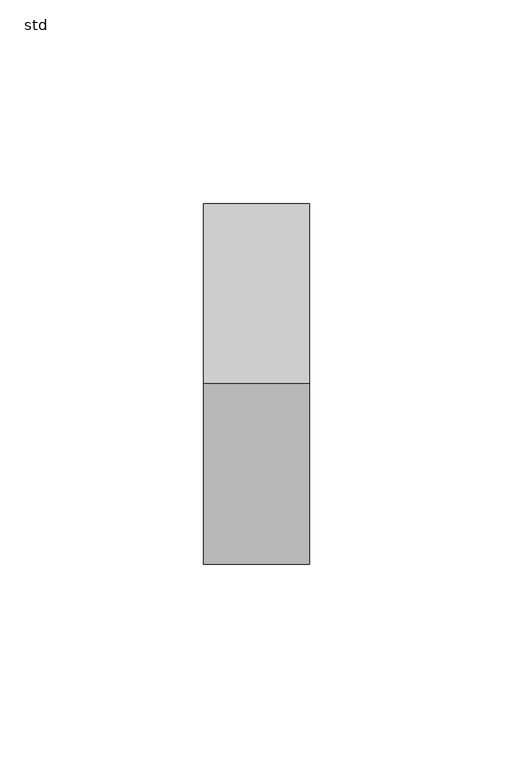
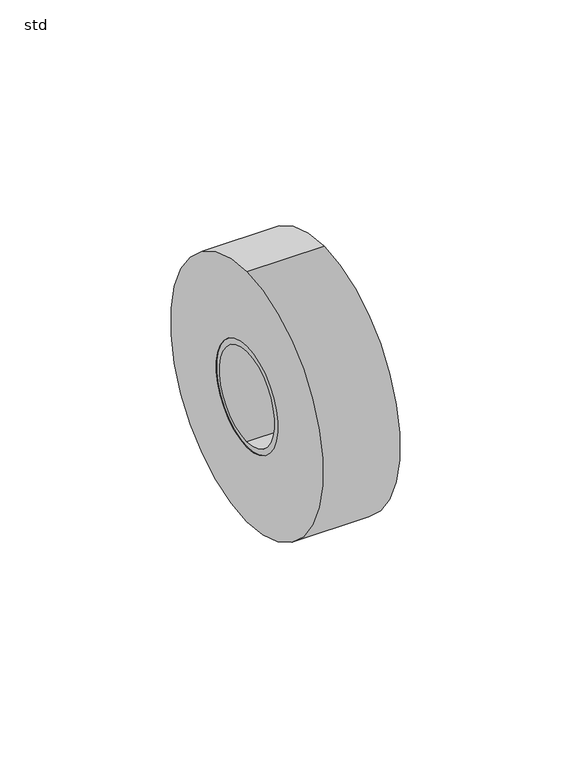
"""IFC4 building model written with IfcOpenShell, lengths in millimetres: pipe fitting geometry, PIF_ST_UN_GM-X compound pipe multi-optimiser (multiport)_ACO : std."""

from ifc_helpers import new_model, si_unit, point, frame, origin, origin_2d, place, context, project, spatial, polyline, circle_curve, trimmed, segment, composite_curve, outline, extrude, source, transform, mapped, element, save
from ifc_brep_helpers import plane_surface, cylinder_surface, revolved_surface, advanced_brep


def std_f4b83b23(model_context):
    return source(origin(), model_context, "Body", "SolidModel", [
        extrude(outline(composite_curve([segment(trimmed(circle_curve(origin_2d(), 44.5), [point((0.0, -44.5))], [point((0.0, 44.5))], False, "CARTESIAN"), True, "CONTINUOUS"), segment(trimmed(circle_curve(origin_2d(), 44.5), [point((0.0, 44.5))], [point((0.0, -44.5))], False, "CARTESIAN"), True, "CONTINUOUS")], self_intersect=False), holes=[composite_curve([segment(trimmed(circle_curve(origin_2d(), 18.0), [point((0.0, 18.0))], [point((0.0, -18.0))], True, "CARTESIAN"), True, "CONTINUOUS"), segment(trimmed(circle_curve(origin_2d(), 18.0), [point((0.0, -18.0))], [point((0.0, 18.0))], True, "CARTESIAN"), True, "CONTINUOUS")], self_intersect=False)]), frame((0.0, 0.0, 0.0), z_axis=(1.0, 0.0, 0.0), x_axis=(0.0, 1.0, 0.0)), (0.0, 0.0, 1.0), 26.0),
        advanced_brep(
        [(0.0, 0.0, -18.0), (0.0, 0.0, 18.0), (0.0, 0.0, 16.0), (0.0, 0.0, -16.0), (26.0, 0.0, -18.0), (26.0, 0.0, 18.0), (26.0, 0.0, -16.0), (26.0, 0.0, 16.0), (11.0, 0.0, -18.0), (11.0, 0.0, 18.0), (22.6, 0.0, 18.0), (22.6, 0.0, -18.0), (11.0, 0.0, -19.5), (11.0, 0.0, 19.5), (22.6, 0.0, -19.5), (22.6, 0.0, 19.5)],
        [
            (0, 1, circle_curve(frame((0.0, 0.0, 0.0), z_axis=(-1.0, 0.0, 0.0), x_axis=(0.0, 0.0, 1.0)), 18.0)),
            (1, 0, circle_curve(frame((0.0, 0.0, 0.0), z_axis=(-1.0, 0.0, 0.0), x_axis=(0.0, 0.0, 1.0)), 18.0)),
            (2, 3, circle_curve(frame((0.0, 0.0, 0.0), z_axis=(1.0, 0.0, 0.0), x_axis=(0.0, 0.0, 1.0)), 16.0)),
            (3, 2, circle_curve(frame((0.0, 0.0, 0.0), z_axis=(1.0, 0.0, 0.0), x_axis=(0.0, 0.0, 1.0)), 16.0)),
            (4, 5, circle_curve(frame((26.0, 0.0, 0.0), z_axis=(1.0, 0.0, 0.0), x_axis=(0.0, 0.0, 1.0)), 18.0)),
            (5, 4, circle_curve(frame((26.0, 0.0, 0.0), z_axis=(1.0, 0.0, 0.0), x_axis=(0.0, 0.0, 1.0)), 18.0)),
            (6, 7, circle_curve(frame((26.0, 0.0, 0.0), z_axis=(-1.0, 0.0, 0.0), x_axis=(0.0, 0.0, 1.0)), 16.0)),
            (7, 6, circle_curve(frame((26.0, 0.0, 0.0), z_axis=(-1.0, 0.0, 0.0), x_axis=(0.0, 0.0, 1.0)), 16.0)),
            (0, 8),
            (8, 9, circle_curve(frame((11.0, 0.0, 0.0), z_axis=(-1.0, 0.0, 0.0), x_axis=(0.0, 0.0, 1.0)), 18.0)),
            (9, 1),
            (5, 10),
            (10, 11, circle_curve(frame((22.6, 0.0, 0.0), z_axis=(1.0, 0.0, 0.0), x_axis=(0.0, 0.0, 1.0)), 18.0)),
            (11, 4),
            (9, 8, circle_curve(frame((11.0, 0.0, 0.0), z_axis=(-1.0, 0.0, 0.0), x_axis=(0.0, 0.0, 1.0)), 18.0)),
            (11, 10, circle_curve(frame((22.6, 0.0, 0.0), z_axis=(1.0, 0.0, 0.0), x_axis=(0.0, 0.0, 1.0)), 18.0)),
            (2, 7),
            (6, 3),
            (12, 13, circle_curve(frame((11.0, 0.0, 0.0), z_axis=(-1.0, 0.0, 0.0), x_axis=(0.0, 0.0, 1.0)), 19.5)),
            (13, 12, circle_curve(frame((11.0, 0.0, 0.0), z_axis=(-1.0, 0.0, 0.0), x_axis=(0.0, 0.0, 1.0)), 19.5)),
            (14, 15, circle_curve(frame((22.6, 0.0, 0.0), z_axis=(1.0, 0.0, 0.0), x_axis=(0.0, 0.0, 1.0)), 19.5)),
            (15, 14, circle_curve(frame((22.6, 0.0, 0.0), z_axis=(1.0, 0.0, 0.0), x_axis=(0.0, 0.0, 1.0)), 19.5)),
            (12, 14),
            (15, 13),
        ],
        [
            plane_surface(frame((0.0, 0.0, 18.0), z_axis=(-1.0, 0.0, 0.0), x_axis=(0.0, 1.0, 0.0))),
            plane_surface(frame((26.0, 0.0, 18.0), z_axis=(1.0, 0.0, 0.0), x_axis=(0.0, -1.0, 0.0))),
            cylinder_surface(frame((26.0, 0.0, 0.0), z_axis=(-1.0, 0.0, 0.0), x_axis=(0.0, 0.0, 1.0)), 18.0),
            revolved_surface(polyline([(0.0, 0.0, 16.0), (26.0, 0.0, 16.0)]), (26.0, 0.0, 0.0), (-1.0, 0.0, 0.0)),
            plane_surface(frame((11.0, 0.0, 19.5), z_axis=(-1.0, 0.0, 0.0), x_axis=(0.0, 1.0, 0.0))),
            plane_surface(frame((22.6, 0.0, 19.5), z_axis=(1.0, 0.0, 0.0), x_axis=(0.0, -1.0, 0.0))),
            cylinder_surface(frame((22.6, 0.0, 0.0), z_axis=(-1.0, 0.0, 0.0), x_axis=(0.0, 0.0, 1.0)), 19.5),
        ],
        [
            (0, [[1, 2], [3, 4]]),
            (1, [[5, 6], [7, 8]]),
            (2, [[-1, 9, 10, 11]]),
            (2, [[-6, 12, 13, 14]]),
            (2, [[-2, -11, 15, -9]]),
            (2, [[-5, -14, 16, -12]]),
            (3, [[17, -7, 18, -3]]),
            (3, [[-17, -4, -18, -8]]),
            (4, [[19, 20], [-10, -15]]),
            (5, [[21, 22], [-13, -16]]),
            (6, [[-19, 23, -22, 24]]),
            (6, [[-20, -24, -21, -23]]),
        ],
    ),
    ])


if __name__ == "__main__":
    model = new_model("IFC4")
    model_context = context("Model", 3, world=origin())
    ifc_project = project(units=[si_unit("LENGTHUNIT", "METRE", prefix="MILLI")], contexts=[model_context])
    site = spatial("IfcSite", under=ifc_project)
    building = spatial("IfcBuilding", under=site)
    placement = place(None, origin())
    std_shape = std_f4b83b23(model_context)
    element("IfcPipeFitting", 1, ObjectType="PIF_ST_UN_GM-X compound pipe multi-optimiser (multiport)_ACO : std", at=placement, inside=building, context=model_context, shape_type="MappedRepresentation", body=[
        mapped(std_shape, transform((0.0, 0.0, 0.0), x_axis=(1.0, 0.0, 0.0), y_axis=(0.0, 1.0, 0.0), z_axis=(0.0, 0.0, 1.0))),
    ])
    save(model, "model.ifc")
